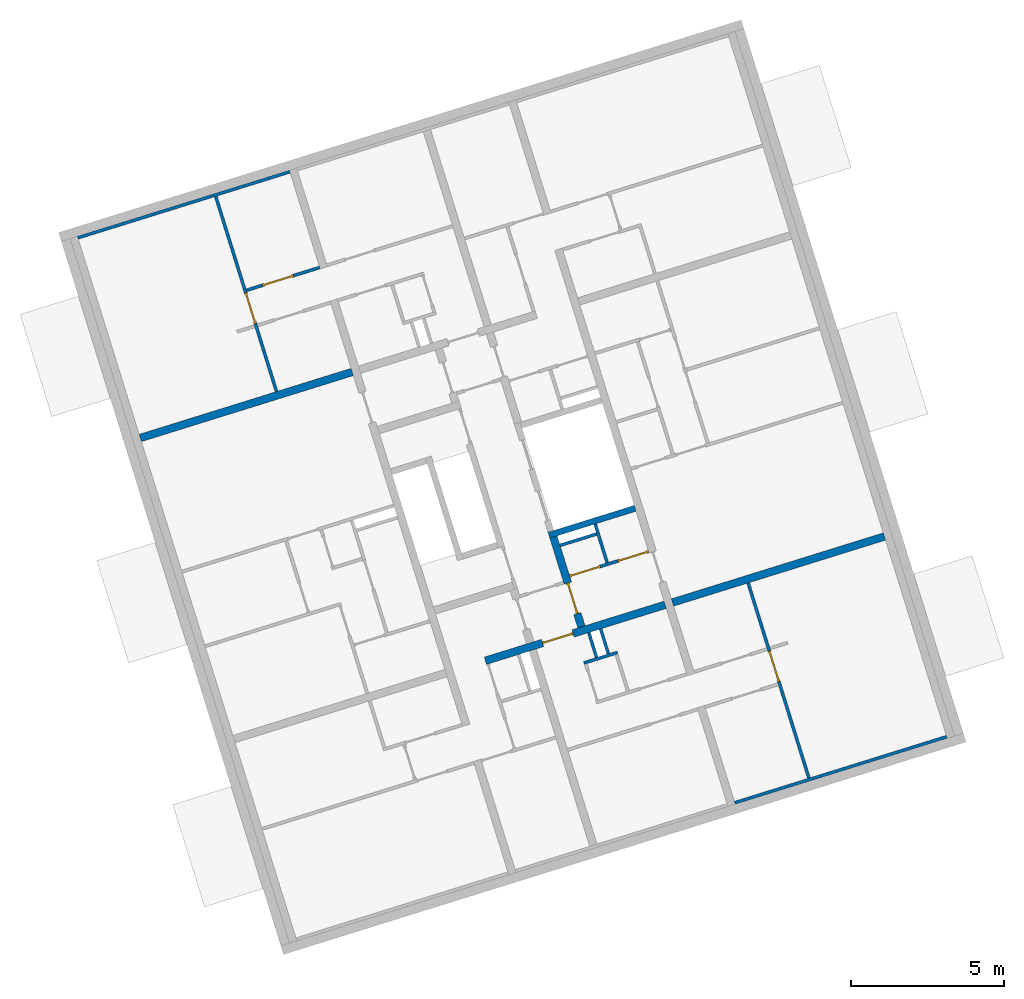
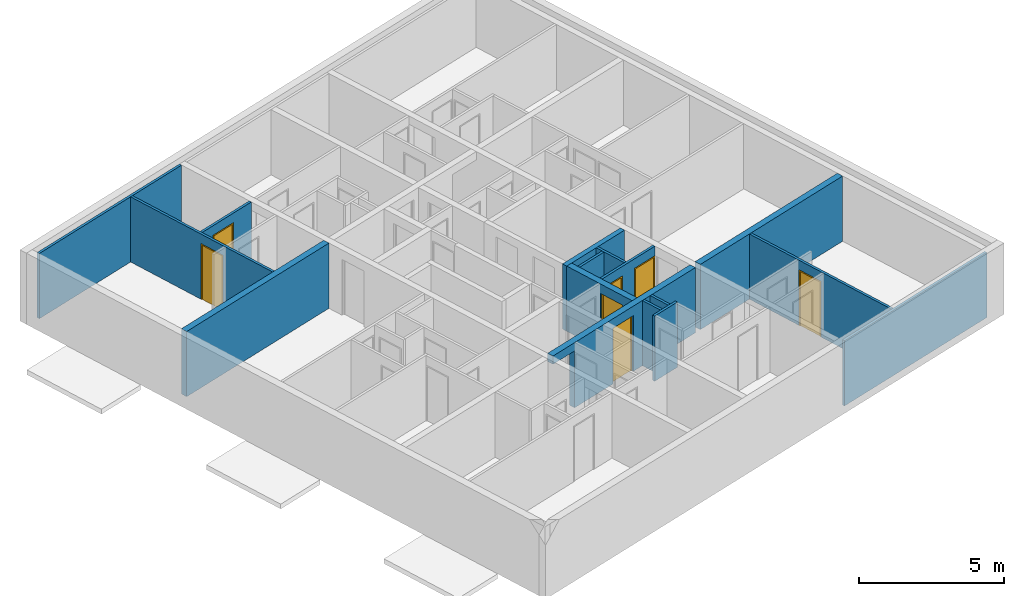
# One storey, part 4 of 9: 16 walls, 7 doors, 8 openings.
"""IFC4 building model written with IfcOpenShell, lengths in metres."""

import ifcopenshell
import ifcopenshell.guid

model = None  # the IFC model being written
_history = None  # IfcOwnerHistory: only IFC2X3 demands one
_inside = {}  # id of a spatial element -> (the spatial element, [elements in it])
_under = {}  # id of a project, library or spatial element -> (it, [spatial elements below it])
_declared = {}  # id of a project -> (the project, [libraries it declares])
_typed = {}  # id of a type object -> (the type object, [elements of that type])
_made_of = {}  # id of a material, layer set ... -> (it, [elements and type objects made of it])


def new_model(schema):
    """Start an empty IFC model of exactly this schema.

    Asked for "IFC4X3", IfcOpenShell would pick the latest addendum, in which some entities
    have other attributes; the version numbers below select the first issue.
    IFC2X3 requires an IfcOwnerHistory on every rooted entity: one is made here for all.
    """
    global model, _history
    if schema == "IFC4X3":
        model = ifcopenshell.file(schema_version=(4, 3, 0, 0))
    else:
        model = ifcopenshell.file(schema=schema)
    _inside.clear()
    _under.clear()
    _declared.clear()
    _typed.clear()
    _made_of.clear()
    _history = None
    if model.schema == "IFC2X3":
        org = make("IfcOrganization", Name="unknown")
        user = make(
            "IfcPersonAndOrganization",
            ThePerson=make("IfcPerson", FamilyName="unknown"),
            TheOrganization=org,
        )
        app = make(
            "IfcApplication",
            ApplicationDeveloper=org,
            Version="unknown",
            ApplicationFullName="unknown",
            ApplicationIdentifier="unknown",
        )
        _history = make(
            "IfcOwnerHistory",
            OwningUser=user,
            OwningApplication=app,
            ChangeAction="ADDED",
            CreationDate=0,
        )
    return model


def make(cls, **values):
    """One entity of the class cls with the attributes given. An attribute that is None is left unset."""
    return model.create_entity(
        cls, **{name: value for name, value in values.items() if value is not None}
    )


def entity(cls, *values):
    """Any entity or typed value of the class cls, its attributes in the order of the schema. None: left unset."""
    e = model.create_entity(cls)
    for i, value in enumerate(values):
        if value is not None:
            e[i] = value
    return e


def rooted(cls, **values):
    """An entity with a GlobalId (a new one), such as an element, a storey or a relation."""
    return make(cls, GlobalId=ifcopenshell.guid.new(), OwnerHistory=_history, **values)


def si_unit(unit_type, name, prefix=None):
    """IfcSIUnit, for example si_unit("LENGTHUNIT", "METRE", prefix="MILLI")."""
    return make("IfcSIUnit", UnitType=unit_type, Prefix=prefix, Name=name)


def converted_unit(unit_type, name, factor, base, dimensions=None, offset=None):
    """IfcConversionBasedUnit, such as the inch: factor (a typed value) times the base unit."""
    return make(
        "IfcConversionBasedUnit"
        if offset is None
        else "IfcConversionBasedUnitWithOffset",
        ConversionOffset=offset,
        Dimensions=None
        if dimensions is None
        else entity("IfcDimensionalExponents", *dimensions),
        UnitType=unit_type,
        Name=name,
        ConversionFactor=make(
            "IfcMeasureWithUnit", ValueComponent=factor, UnitComponent=base
        ),
    )


def assignment(units):
    """IfcUnitAssignment: the units of a project."""
    return None if units is None else make("IfcUnitAssignment", Units=units)


def point(xyz):
    """IfcCartesianPoint."""
    return None if xyz is None else make("IfcCartesianPoint", Coordinates=xyz)


def direction(xyz):
    """IfcDirection."""
    return None if xyz is None else make("IfcDirection", DirectionRatios=xyz)


def frame(location, z_axis=None, x_axis=None):
    """IfcAxis2Placement3D, a coordinate frame: its origin and axes. An axis left out is left unset."""
    return make(
        "IfcAxis2Placement3D",
        Location=point(location),
        Axis=direction(z_axis),
        RefDirection=direction(x_axis),
    )


def origin():
    """The frame at (0, 0, 0) with its axes left unset."""
    return frame((0.0, 0.0, 0.0))


def place(relative_to, where):
    """IfcLocalPlacement: puts the frame where relative to a parent placement (None: the world)."""
    return make(
        "IfcLocalPlacement", PlacementRelTo=relative_to, RelativePlacement=where
    )


def context(
    kind, dimensions, precision=None, world=None, true_north=None, identifier=None
):
    """IfcGeometricRepresentationContext, for example the 3D "Model" context."""
    return make(
        "IfcGeometricRepresentationContext",
        ContextIdentifier=identifier,
        ContextType=kind,
        CoordinateSpaceDimension=dimensions,
        Precision=precision,
        WorldCoordinateSystem=world,
        TrueNorth=true_north,
    )


def subcontext(parent, identifier, kind, view, scale=None):
    """IfcGeometricRepresentationSubContext, for example "Body" below "Model"."""
    return make(
        "IfcGeometricRepresentationSubContext",
        ContextIdentifier=identifier,
        ContextType=kind,
        ParentContext=parent,
        TargetScale=scale,
        TargetView=view,
    )


def project(units=None, contexts=None):
    """IfcProject with its units and contexts."""
    return rooted(
        "IfcProject",
        Name="project",
        RepresentationContexts=contexts,
        UnitsInContext=assignment(units),
    )


def spatial(cls, under=None, at=None, **own):
    """A site, building, storey or space (cls), placed at a placement, below another one or the project."""
    s = rooted(cls, ObjectPlacement=at, **own)
    if under is not None:
        _under.setdefault(under.id(), (under, []))[1].append(s)
    return s


def point_list(points):
    """IfcCartesianPointList2D or 3D."""
    cls = (
        "IfcCartesianPointList2D" if len(points[0]) == 2 else "IfcCartesianPointList3D"
    )
    return make(cls, CoordList=points)


def indexed_curve(points, segments=None, self_intersect=None):
    """IfcIndexedPolyCurve: lines and arcs through numbered points (the first is 1)."""
    return make(
        "IfcIndexedPolyCurve",
        Points=point_list(points),
        Segments=segments,
        SelfIntersect=self_intersect,
    )


def outline(outer, holes=None, kind="AREA"):
    """IfcArbitraryClosedProfileDef: a profile drawn as a closed curve; with holes, ...WithVoids."""
    if holes is None:
        return make("IfcArbitraryClosedProfileDef", ProfileType=kind, OuterCurve=outer)
    return make(
        "IfcArbitraryProfileDefWithVoids",
        ProfileType=kind,
        OuterCurve=outer,
        InnerCurves=holes,
    )


def extrude(swept, where, along, depth):
    """IfcExtrudedAreaSolid: the profile swept, set in the frame where, extruded along a direction by depth."""
    return make(
        "IfcExtrudedAreaSolid",
        SweptArea=swept,
        Position=where,
        ExtrudedDirection=direction(along),
        Depth=depth,
    )


def polygons(points, faces, closed=None, point_numbers=None):
    """IfcPolygonalFaceSet: a face is its outer loop, then its inner loops; points numbered from 1."""
    made = []
    for loops in faces:
        if len(loops) == 1:
            made.append(make("IfcIndexedPolygonalFace", CoordIndex=loops[0]))
        else:
            made.append(
                make(
                    "IfcIndexedPolygonalFaceWithVoids",
                    CoordIndex=loops[0],
                    InnerCoordIndices=loops[1:],
                )
            )
    return make(
        "IfcPolygonalFaceSet",
        Coordinates=point_list(points),
        Closed=closed,
        Faces=made,
        PnIndex=point_numbers,
    )


def shape(context_of_items, identifier, shape_type, items):
    """IfcShapeRepresentation: the items that make up one representation, for example the "Body"."""
    return make(
        "IfcShapeRepresentation",
        ContextOfItems=context_of_items,
        RepresentationIdentifier=identifier,
        RepresentationType=shape_type,
        Items=items,
    )


def source(mapping_origin, context_of_items, identifier, shape_type, items):
    """IfcRepresentationMap: a shape defined once, which mapped items show again and again."""
    return make(
        "IfcRepresentationMap",
        MappingOrigin=mapping_origin,
        MappedRepresentation=shape(context_of_items, identifier, shape_type, items),
    )


def transform(
    local_origin,
    x_axis=None,
    y_axis=None,
    z_axis=None,
    scale=None,
    scale2=None,
    scale3=None,
    uniform=True,
):
    """IfcCartesianTransformationOperator3D, or its non-uniform kind. x_axis, y_axis, z_axis: its Axis1, 2, 3."""
    if uniform:
        return make(
            "IfcCartesianTransformationOperator3D",
            Axis1=direction(x_axis),
            Axis2=direction(y_axis),
            LocalOrigin=point(local_origin),
            Scale=scale,
            Axis3=direction(z_axis),
        )
    return make(
        "IfcCartesianTransformationOperator3DnonUniform",
        Axis1=direction(x_axis),
        Axis2=direction(y_axis),
        LocalOrigin=point(local_origin),
        Scale=scale,
        Axis3=direction(z_axis),
        Scale2=scale2,
        Scale3=scale3,
    )


def mapped(mapping_source, mapping_target):
    """IfcMappedItem: shows the shape of a source again, moved by a transform."""
    return make(
        "IfcMappedItem", MappingSource=mapping_source, MappingTarget=mapping_target
    )


def material(Name=None, Category=None):
    """IfcMaterial."""
    return make("IfcMaterial", Name=Name, Category=Category)


def constituent(of_material, Name=None, Category=None, fraction=None):
    """IfcMaterialConstituent: one of the materials an element consists of."""
    return make(
        "IfcMaterialConstituent",
        Name=Name,
        Material=of_material,
        Fraction=fraction,
        Category=Category,
    )


def constituent_set(constituents=None, Name=None):
    """IfcMaterialConstituentSet."""
    return make(
        "IfcMaterialConstituentSet", Name=Name, MaterialConstituents=constituents
    )


def made_of(thing, what):
    """Note that an element or type object is made of a material, layer set ...; save() writes the relation."""
    if what is not None:
        _made_of.setdefault(what.id(), (what, []))[1].append(thing)
    return thing


def type_object(cls, material=None, **own):
    """A type object (cls), such as IfcWallType, which elements share."""
    return made_of(rooted(cls, **own), material)


def type_shapes(of_type, sources):
    """Give a type object the sources (RepresentationMaps) that its elements show as mapped items."""
    of_type.RepresentationMaps = sources


def element(
    cls,
    number,
    at=None,
    inside=None,
    cuts=None,
    type_object=None,
    material=None,
    context=None,
    identifier="Body",
    shape_type=None,
    held_by="IfcProductDefinitionShape",
    body=None,
    shapes=None,
    **own,
):
    """One element of the class cls, such as IfcWall. Its Tag is "e" and its number.

    at: its placement. inside: the storey or other place that contains it. cuts: it is an
    opening in that element (IfcRelVoidsElement). A single representation is given by context,
    identifier, shape_type and body (its items); several are given by shapes. held_by: the class
    of the entity that holds the representations. save() writes the other relations.
    """
    e = rooted(cls, Tag="e%d" % number, ObjectPlacement=at, **own)
    if body is not None:
        shapes = [shape(context, identifier, shape_type, body)]
    if shapes is not None:
        e.Representation = make(held_by, Representations=shapes)
    if inside is not None:
        _inside.setdefault(inside.id(), (inside, []))[1].append(e)
    if cuts is not None:
        rooted(
            "IfcRelVoidsElement", RelatingBuildingElement=cuts, RelatedOpeningElement=e
        )
    if type_object is not None:
        _typed.setdefault(type_object.id(), (type_object, []))[1].append(e)
    return made_of(e, material)


def fill(opening, filler):
    """IfcRelFillsElement: the door or window that sits in an opening."""
    return rooted(
        "IfcRelFillsElement",
        RelatingOpeningElement=opening,
        RelatedBuildingElement=filler,
    )


def aggregate(whole, parts):
    """IfcRelAggregates: a whole, such as a stair, and the parts it consists of."""
    return rooted("IfcRelAggregates", RelatingObject=whole, RelatedObjects=parts)


def save(model, path):
    """Write the relations noted so far, then the file.

    IfcRelAggregates (storeys below a building ...), IfcRelContainedInSpatialStructure (elements
    in a storey), IfcRelDefinesByType, IfcRelAssociatesMaterial and IfcRelDeclares: one each for
    every whole, place, type object, material and project.
    """
    for whole, parts in _under.values():
        aggregate(whole, parts)
    for where, things in _inside.values():
        rooted(
            "IfcRelContainedInSpatialStructure",
            RelatedElements=things,
            RelatingStructure=where,
        )
    for kind, things in _typed.values():
        rooted("IfcRelDefinesByType", RelatedObjects=things, RelatingType=kind)
    for what, things in _made_of.values():
        rooted("IfcRelAssociatesMaterial", RelatedObjects=things, RelatingMaterial=what)
    for by, libraries in _declared.values():
        rooted("IfcRelDeclares", RelatingContext=by, RelatedDefinitions=libraries)
    model.write(path)


model = new_model("IFC4")

# Units and contexts
model_context = context("Model", 3, precision=1e-05, world=origin(), true_north=direction((6.12323399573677e-17, 1.0)))
body_context = subcontext(model_context, "Body", "Model", "MODEL_VIEW")
ifc_project = project(units=[si_unit("LENGTHUNIT", "METRE"), si_unit("AREAUNIT", "SQUARE_METRE"), converted_unit("PLANEANGLEUNIT", "DEGREE", entity("IfcPlaneAngleMeasure", 0.0174532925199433), si_unit("PLANEANGLEUNIT", "RADIAN"), dimensions=[0, 0, 0, 0, 0, 0, 0]), si_unit("VOLUMEUNIT", "CUBIC_METRE")], contexts=[model_context])

# Site, building, storey
site_placement = place(None, frame((13.1347999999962, 11.9886000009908, 0.0), z_axis=(0.0, 0.0, 1.0), x_axis=(0.954770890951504, 0.297342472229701, 0.0)))
site = spatial("IfcSite", under=ifc_project, at=site_placement, Name="Schiehaven", CompositionType="ELEMENT")
building_placement = place(site_placement, origin())
building = spatial("IfcBuilding", under=site, at=building_placement, Name="VORM huis", CompositionType="ELEMENT")
storey_placement = place(building_placement, frame((0.0, 0.0, 24.9)))
storey = spatial("IfcBuildingStorey", under=building, at=storey_placement, Name="08 achtste verdieping", CompositionType="ELEMENT", Elevation=24.9)

# Wall, openings, door
ifc_material_1 = material(Name="beton_gewapend_ihw", Category="Miscellaneous")
wall_type_1 = type_object("IfcWallType", Name="Basic Wall:28_WA_skelet_wand 250mm_gen", PredefinedType="STANDARD")
wall_1_placement = place(storey_placement, frame((65.125, 11.8999999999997, 0.0)))
wall_1 = element("IfcWall", 1, at=wall_1_placement, inside=storey, type_object=wall_type_1, material=ifc_material_1, Name="Constructieve wand", ObjectType="Wand", PredefinedType="NOTDEFINED", context=body_context, shape_type="Tessellation", body=[
    polygons([(4.09999999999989, -0.125, 2.34999999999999), (4.09999999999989, -0.125, 0.0), (7.24999999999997, -0.125, 0.0), (7.24999999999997, -0.125, 2.75), (-3.43598028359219e-15, -0.125, 2.75), (-3.43598028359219e-15, -0.125, 2.4), (1.10000000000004, -0.125, 2.4), (1.10000000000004, -0.125, 0.0), (3.04999999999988, -0.125, 0.0), (3.04999999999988, -0.125, 2.34999999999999), (7.24999999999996, 0.125, 0.0), (4.09999999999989, 0.125, 0.0), (4.09999999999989, 0.125, 2.34999999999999), (3.04999999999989, 0.125, 2.34999999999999), (3.04999999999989, 0.125, 0.0), (1.10000000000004, 0.125, 0.0), (1.10000000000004, 0.125, 2.4), (-9.33960364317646e-16, 0.125, 2.4), (-9.33960364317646e-16, 0.125, 2.75), (7.24999999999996, 0.125, 2.75)], [[[1, 2, 3, 4, 5, 6, 7, 8, 9, 10]], [[11, 12, 13, 14, 15, 16, 17, 18, 19, 20]], [[9, 8, 16, 15]], [[5, 4, 20, 19]], [[5, 19, 18, 6]], [[15, 14, 10, 9]], [[13, 12, 2, 1]], [[14, 13, 1, 10]], [[17, 7, 6, 18]], [[7, 17, 16, 8]], [[4, 3, 11, 20]], [[3, 2, 12, 11]]], closed=True),
])
opening_1_placement = place(wall_1_placement, origin())
element("IfcOpeningElement", 2, at=opening_1_placement, cuts=wall_1, Name="Constructieve wand", PredefinedType="OPENING", context=body_context, shape_type="SweptSolid", body=[
    extrude(outline(indexed_curve([(-1.2, -0.550000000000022), (1.2, -0.550000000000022), (1.2, 0.550000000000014), (-1.2, 0.550000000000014), (-1.2, -0.550000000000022)], self_intersect=False)), frame((0.55000000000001, -0.125, 1.2), z_axis=(0.0, 1.0, 0.0), x_axis=(0.0, 0.0, -1.0)), (0.0, 0.0, 1.0), 0.249999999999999),
])
opening_2_placement = place(wall_1_placement, frame((3.04999999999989, -0.124999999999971, 0.0)))
opening_2 = element("IfcOpeningElement", 3, at=opening_2_placement, cuts=wall_1, Name="Woningtoegangsdeur", PredefinedType="OPENING", context=body_context, shape_type="SweptSolid", body=[
    extrude(outline(indexed_curve([(2.34999999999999, 1.8457481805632e-29), (2.34999999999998, 1.05), (0.0, 1.05), (2.16573425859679e-15, 1.8457481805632e-29), (2.34999999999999, 1.8457481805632e-29)], self_intersect=False)), frame((0.0, 0.0, 0.0), z_axis=(0.0, 1.0, 0.0), x_axis=(0.0, 0.0, 1.0)), (0.0, 0.0, 1.0), 0.25),
])
ifc_material_2 = material(Name="PD_a_binnenwandopeningen", Category="Miscellaneous")
ifc_constituent_1 = constituent(ifc_material_2, Name="PD_a_binnenwandopeningen", Category="Miscellaneous")
ifc_material_3 = material(Name="metaal_aluminium_ntb", Category="Miscellaneous")
ifc_constituent_2 = constituent(ifc_material_3, Name="metaal_aluminium_ntb", Category="Miscellaneous")
ifc_constituent_set_1 = constituent_set(constituents=[ifc_constituent_1, ifc_constituent_2])
ifc_constituent_3 = constituent(ifc_material_2, Name="PD_a_binnenwandopeningen", Category="Miscellaneous")
ifc_constituent_4 = constituent(ifc_material_3, Name="Panel", Category="Miscellaneous")
ifc_constituent_set_2 = constituent_set(constituents=[ifc_constituent_3, ifc_constituent_4])
door_type_1 = type_object("IfcDoorType", Name="32_DO_binnendeur enkel:woningtoegangsdeur", OperationType="REVOLVING", PredefinedType="DOOR", material=ifc_constituent_set_2)
shared_shape_1 = source(origin(), body_context, "Body", "SweptSolid", [
    extrude(outline(indexed_curve([(0.475, -1.16249999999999), (0.525000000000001, -1.16249999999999), (0.525000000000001, 1.18749999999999), (-0.525000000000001, 1.18749999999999), (-0.525000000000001, -1.16249999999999), (-0.475, -1.16249999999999), (-0.475, 1.13749999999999), (0.475, 1.13749999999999), (0.475, -1.16249999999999)], self_intersect=False)), frame((0.525000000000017, 0.174999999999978, 1.16249999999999), z_axis=(0.0, -1.0, 0.0), x_axis=(1.0, 0.0, 0.0)), (0.0, 0.0, 1.0), 0.1),
    extrude(outline(indexed_curve([(-0.475, -0.025), (0.475, -0.025), (0.475, 0.025), (-0.475, 0.025), (-0.475, -0.025)], self_intersect=False)), frame((0.525000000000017, 0.12499999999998, 0.0)), (0.0, 0.0, 1.0), 2.29999999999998),
])
type_shapes(door_type_1, [shared_shape_1])
door_1_placement = place(opening_2_placement, origin())
door_1 = element("IfcDoor", 4, at=door_1_placement, inside=storey, type_object=door_type_1, material=ifc_constituent_set_1, Name="Woningtoegangsdeur", ObjectType="Deur", OperationType="REVOLVING", OverallHeight=2.34999999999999, OverallWidth=1.05, PredefinedType="DOOR", context=body_context, shape_type="MappedRepresentation", body=[
    mapped(shared_shape_1, transform((0.0, 0.0, 0.0), scale=1.0)),
])
fill(opening_2, door_1)

# Walls
ifc_material_4 = material(Name="ntb_ntb_ntb", Category="Miscellaneous")
wall_type_2 = type_object("IfcWallType", Name="Basic Wall:21_WA_gevel_binnenspouwwand 100mm_gen", PredefinedType="STANDARD")
wall_2_placement = place(storey_placement, frame((79.8750000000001, 5.04999999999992, 0.0), z_axis=(0.0, 0.0, 1.0), x_axis=(-1.0, 0.0, 0.0)))
element("IfcWall", 5, at=wall_2_placement, inside=storey, type_object=wall_type_2, material=ifc_material_4, Name="Binnenspouwblad", ObjectType="Wand", PredefinedType="NOTDEFINED", context=body_context, shape_type="SweptSolid", body=[
    extrude(outline(indexed_curve([(7.24999999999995, 0.0499999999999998), (5.48749790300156e-18, 0.0499999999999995), (-5.48749790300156e-18, -0.0499999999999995), (7.24999999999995, -0.0499999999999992), (7.24999999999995, 0.0499999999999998)], self_intersect=False)), origin(), (0.0, 0.0, 1.0), 2.75),
])
wall_3_placement = place(storey_placement, frame((64.8750000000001, 29.0499999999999, 0.0), z_axis=(0.0, 0.0, 1.0), x_axis=(-1.0, 0.0, 0.0)))
element("IfcWall", 6, at=wall_3_placement, inside=storey, type_object=wall_type_2, material=ifc_material_4, Name="Binnenspouwblad", ObjectType="Wand", PredefinedType="NOTDEFINED", context=body_context, shape_type="SweptSolid", body=[
    extrude(outline(indexed_curve([(7.24999999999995, 0.0499999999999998), (-1.70916305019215e-17, 0.0500000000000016), (1.70916305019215e-17, -0.0500000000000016), (7.24999999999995, -0.0500000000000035), (7.24999999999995, 0.0499999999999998)], self_intersect=False)), origin(), (0.0, 0.0, 1.0), 2.75),
])
ifc_material_5 = material(Name="beton_gewapend_prefab-element", Category="Miscellaneous")
wall_type_3 = type_object("IfcWallType", Name="Basic Wall:28_WA_skelet_wand 200mm_gen", PredefinedType="STANDARD")
wall_4_placement = place(storey_placement, frame((72.3750000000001, 15.1999999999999, 0.0), z_axis=(0.0, 0.0, 1.0), x_axis=(-1.0, 0.0, 0.0)))
element("IfcWall", 7, at=wall_4_placement, inside=storey, type_object=wall_type_3, material=ifc_material_5, Name="Constructieve wand", ObjectType="Wand", PredefinedType="NOTDEFINED", context=body_context, shape_type="SweptSolid", body=[
    extrude(outline(indexed_curve([(2.9500000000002, 0.100000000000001), (-7.31549408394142e-18, 0.100000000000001), (7.31549408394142e-18, -0.100000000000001), (2.9500000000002, -0.100000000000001), (2.9500000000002, 0.100000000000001)], self_intersect=False)), origin(), (0.0, 0.0, 1.0), 2.75),
])
wall_type_4 = type_object("IfcWallType", Name="Basic Wall:22_WA_afbouw_binnenwand 250mm_gen", PredefinedType="STANDARD")
wall_5_placement = place(storey_placement, frame((64.8749999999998, 22.1999999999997, 0.0), z_axis=(0.0, 0.0, 1.0), x_axis=(-1.0, 0.0, 0.0)))
element("IfcWall", 8, at=wall_5_placement, inside=storey, type_object=wall_type_4, material=ifc_material_4, Name="Binnenwand", ObjectType="Wand", PredefinedType="NOTDEFINED", context=body_context, shape_type="SweptSolid", body=[
    extrude(outline(indexed_curve([(7.24999999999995, 0.125000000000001), (1.36042581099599e-15, 0.125000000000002), (-1.36042581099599e-15, -0.125000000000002), (7.24999999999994, -0.125000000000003), (7.24999999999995, 0.125000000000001)], self_intersect=False)), origin(), (0.0, 0.0, 1.0), 2.75),
])
wall_6_placement = place(storey_placement, frame((72.6249999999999, 11.8999999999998, 0.0)))
element("IfcWall", 9, at=wall_6_placement, inside=storey, type_object=wall_type_4, material=ifc_material_4, Name="Binnenwand", ObjectType="Wand", PredefinedType="NOTDEFINED", context=body_context, shape_type="SweptSolid", body=[
    extrude(outline(indexed_curve([(7.24999999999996, 0.124999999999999), (1.36514404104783e-15, 0.125), (-1.36514404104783e-15, -0.125), (7.24999999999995, -0.125000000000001), (7.24999999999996, 0.124999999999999)], self_intersect=False)), origin(), (0.0, 0.0, 1.0), 2.75),
])

# Wall, opening, door
wall_7_placement = place(storey_placement, frame((69.5499999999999, 15.0999999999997, 0.0), z_axis=(0.0, 0.0, 1.0), x_axis=(0.0, -1.0, 0.0)))
wall_7 = element("IfcWall", 10, at=wall_7_placement, inside=storey, type_object=wall_type_4, material=ifc_material_4, Name="Binnenwand", ObjectType="Wand", PredefinedType="NOTDEFINED", context=body_context, shape_type="Tessellation", body=[
    polygons([(2.62500000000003, -0.125000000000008, 2.34999999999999), (2.62500000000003, -0.125000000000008, 0.0), (3.07499999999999, -0.125000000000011, 0.0), (3.07499999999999, -0.125000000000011, 2.75), (1.575, -0.125000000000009, 2.75), (1.475, -0.125000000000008, 2.75), (0.0, -0.125000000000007, 2.75), (0.0, -0.125000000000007, 0.0), (1.475, -0.125000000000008, 0.0), (1.57500000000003, -0.125000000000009, 0.0), (1.57500000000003, -0.125000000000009, 2.34999999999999), (3.07499999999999, 0.124999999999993, 0.0), (2.62500000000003, 0.124999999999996, 0.0), (2.62500000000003, 0.124999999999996, 2.34999999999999), (1.57500000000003, 0.124999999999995, 2.34999999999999), (1.57500000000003, 0.124999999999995, 0.0), (-2.16573425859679e-15, 0.125000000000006, 0.0), (-2.16573425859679e-15, 0.125000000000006, 2.75), (3.07499999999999, 0.124999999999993, 2.75)], [[[1, 2, 3, 4, 5, 6, 7, 8, 9, 10, 11]], [[12, 13, 14, 15, 16, 17, 18, 19]], [[10, 9, 8, 17, 16]], [[4, 3, 12, 19]], [[7, 6, 5, 4, 19, 18]], [[8, 7, 18, 17]], [[16, 15, 11, 10]], [[14, 13, 2, 1]], [[15, 14, 1, 11]], [[3, 2, 13, 12]]], closed=True),
])
opening_3_placement = place(wall_7_placement, frame((2.62500000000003, 0.125000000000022, 0.0)))
opening_3 = element("IfcOpeningElement", 11, at=opening_3_placement, cuts=wall_7, Name="Woningtoegangsdeur", PredefinedType="OPENING", context=body_context, shape_type="SweptSolid", body=[
    extrude(outline(indexed_curve([(2.34999999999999, 1.05), (0.0, 1.05), (0.0, 1.08286712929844e-15), (2.34999999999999, 1.08286712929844e-15), (2.34999999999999, 1.05)], self_intersect=False)), frame((0.0, 0.0, 0.0), z_axis=(0.0, -1.0, 0.0), x_axis=(0.0, 0.0, 1.0)), (0.0, 0.0, 1.0), 0.25),
])
ifc_constituent_5 = constituent(ifc_material_2, Name="PD_a_binnenwandopeningen", Category="Miscellaneous")
ifc_constituent_6 = constituent(ifc_material_3, Name="metaal_aluminium_ntb", Category="Miscellaneous")
ifc_constituent_set_3 = constituent_set(constituents=[ifc_constituent_5, ifc_constituent_6])
ifc_constituent_7 = constituent(ifc_material_2, Name="PD_a_binnenwandopeningen", Category="Miscellaneous")
ifc_constituent_8 = constituent(ifc_material_3, Name="Panel", Category="Miscellaneous")
ifc_constituent_set_4 = constituent_set(constituents=[ifc_constituent_7, ifc_constituent_8])
door_type_2 = type_object("IfcDoorType", Name="32_DO_binnendeur enkel:woningtoegangsdeur", OperationType="REVOLVING", PredefinedType="DOOR", material=ifc_constituent_set_4)
shared_shape_2 = source(origin(), body_context, "Body", "SweptSolid", [
    extrude(outline(indexed_curve([(-1.16249999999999, -0.525000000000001), (1.18749999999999, -0.525), (1.18749999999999, 0.525000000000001), (-1.16249999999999, 0.525000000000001), (-1.16249999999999, 0.475), (1.13749999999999, 0.475), (1.13749999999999, -0.475), (-1.16249999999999, -0.475), (-1.16249999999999, -0.525000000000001)], self_intersect=False)), frame((0.525000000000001, 0.0749999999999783, 1.16249999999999), z_axis=(0.0, 1.0, 0.0), x_axis=(0.0, 0.0, 1.0)), (0.0, 0.0, 1.0), 0.1),
    extrude(outline(indexed_curve([(-0.025, -0.475), (0.025, -0.475), (0.025, 0.475), (-0.025, 0.475), (-0.025, -0.475)], self_intersect=False)), frame((0.525000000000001, 0.12499999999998, 0.0), z_axis=(0.0, 0.0, 1.0), x_axis=(0.0, 1.0, 0.0)), (0.0, 0.0, 1.0), 2.29999999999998),
])
type_shapes(door_type_2, [shared_shape_2])
door_2_placement = place(opening_3_placement, frame((0.0, 0.0, 0.0), z_axis=(0.0, 0.0, 1.0), x_axis=(-1.0, 0.0, 0.0)))
door_2 = element("IfcDoor", 12, at=door_2_placement, inside=storey, type_object=door_type_2, material=ifc_constituent_set_3, Name="Woningtoegangsdeur", ObjectType="Deur", OperationType="REVOLVING", OverallHeight=2.34999999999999, OverallWidth=1.05, PredefinedType="DOOR", context=body_context, shape_type="MappedRepresentation", body=[
    mapped(shared_shape_2, transform((0.0, 0.0, 0.0), scale=1.0)),
])
fill(opening_3, door_2)

# Walls
wall_type_5 = type_object("IfcWallType", Name="Basic Wall:22_WA_afbouw_binnenwand 100mm_gen", PredefinedType="STANDARD")
wall_8_placement = place(storey_placement, frame((70.4249999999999, 10.8749999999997, 0.0), z_axis=(0.0, 0.0, 1.0), x_axis=(-1.0, 0.0, 0.0)))
element("IfcWall", 13, at=wall_8_placement, inside=storey, type_object=wall_type_5, material=ifc_material_4, Name="Binnenwand", ObjectType="Wand", PredefinedType="NOTDEFINED", context=body_context, shape_type="SweptSolid", body=[
    extrude(outline(indexed_curve([(1.15, 0.049999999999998), (6.26749477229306e-16, 0.0499999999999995), (-6.26749477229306e-16, -0.0499999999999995), (1.15, -0.0500000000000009), (1.15, 0.049999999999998)], self_intersect=False)), origin(), (0.0, 0.0, 1.0), 2.75),
])
wall_9_placement = place(storey_placement, frame((69.7249999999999, 11.7749999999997, 0.0), z_axis=(0.0, 0.0, 1.0), x_axis=(0.0, -1.0, 0.0)))
element("IfcWall", 14, at=wall_9_placement, inside=storey, type_object=wall_type_5, material=ifc_material_4, Name="Binnenwand", ObjectType="Wand", PredefinedType="NOTDEFINED", context=body_context, shape_type="SweptSolid", body=[
    extrude(outline(indexed_curve([(0.850000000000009, 0.0499999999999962), (5.75634952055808e-16, 0.0499999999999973), (-5.75634952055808e-16, -0.0499999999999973), (0.850000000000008, -0.0499999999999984), (0.850000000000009, 0.0499999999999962)], self_intersect=False)), origin(), (0.0, 0.0, 1.0), 2.75),
])

# Wall, opening, door
wall_10_placement = place(storey_placement, frame((75.175, 11.7749999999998, 0.0), z_axis=(0.0, 0.0, 1.0), x_axis=(0.0, -1.0, 0.0)))
wall_10 = element("IfcWall", 15, at=wall_10_placement, inside=storey, type_object=wall_type_5, material=ifc_material_4, Name="Binnenwand", ObjectType="Wand", PredefinedType="NOTDEFINED", context=body_context, shape_type="Tessellation", body=[
    polygons([(0.0, -0.050000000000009, 0.0), (2.19999999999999, -0.0500000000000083, 0.0), (2.29999999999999, -0.0500000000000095, 0.0), (2.325, -0.0500000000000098, 0.0), (2.325, -0.0500000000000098, 2.34999999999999), (3.375, -0.0500000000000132, 2.34999999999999), (3.375, -0.0500000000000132, 0.0), (3.39999999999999, -0.0500000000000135, 0.0), (3.49999999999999, -0.050000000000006, 0.0), (6.67499999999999, -0.0500000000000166, 0.0), (6.67499999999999, -0.0500000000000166, 2.75), (3.49999999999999, -0.050000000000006, 2.75), (3.39999999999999, -0.0500000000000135, 2.75), (2.29999999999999, -0.0500000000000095, 2.75), (2.19999999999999, -0.0500000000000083, 2.75), (0.0, -0.050000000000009, 2.75), (2.325, 0.0499999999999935, 2.34999999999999), (2.325, 0.0499999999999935, 0.0), (2.29999999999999, 0.0499999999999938, 0.0), (2.19999999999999, 0.0499999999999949, 0.0), (0.0, 0.0499999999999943, 0.0), (0.0, 0.0499999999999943, 2.75), (2.19999999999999, 0.0499999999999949, 2.75), (2.29999999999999, 0.0499999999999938, 2.75), (6.67499999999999, 0.0499999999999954, 2.75), (6.67499999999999, 0.0499999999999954, 0.0), (3.375, 0.04999999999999, 0.0), (3.375, 0.04999999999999, 2.34999999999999)], [[[1, 2, 3, 4, 5, 6, 7, 8, 9, 10, 11, 12, 13, 14, 15, 16]], [[17, 18, 19, 20, 21, 22, 23, 24, 25, 26, 27, 28]], [[21, 20, 19, 18, 4, 3, 2, 1]], [[11, 10, 26, 25]], [[16, 15, 14, 13, 12, 11, 25, 24, 23, 22]], [[1, 16, 22, 21]], [[7, 6, 28, 27]], [[5, 4, 18, 17]], [[6, 5, 17, 28]], [[27, 26, 10, 9, 8, 7]]], closed=True),
])
opening_4_placement = place(wall_10_placement, frame((3.375, 0.0500000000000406, 0.0)))
opening_4 = element("IfcOpeningElement", 16, at=opening_4_placement, cuts=wall_10, Name="Binnendeur", PredefinedType="OPENING", context=body_context, shape_type="SweptSolid", body=[
    extrude(outline(indexed_curve([(2.34999999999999, 0.0), (2.34999999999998, 1.05), (0.0, 1.05), (2.16573425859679e-15, 0.0), (2.34999999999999, 0.0)], self_intersect=False)), frame((0.0, 0.0, 0.0), z_axis=(0.0, -1.0, 0.0), x_axis=(0.0, 0.0, 1.0)), (0.0, 0.0, 1.0), 0.1),
])
ifc_constituent_9 = constituent(ifc_material_2, Name="PD_a_binnenwandopeningen", Category="Miscellaneous")
ifc_constituent_10 = constituent(ifc_material_3, Name="metaal_aluminium_ntb", Category="Miscellaneous")
ifc_constituent_set_5 = constituent_set(constituents=[ifc_constituent_9, ifc_constituent_10])
ifc_constituent_11 = constituent(ifc_material_2, Name="PD_a_binnenwandopeningen", Category="Miscellaneous")
ifc_constituent_12 = constituent(ifc_material_3, Name="Panel", Category="Miscellaneous")
ifc_constituent_set_6 = constituent_set(constituents=[ifc_constituent_11, ifc_constituent_12])
door_type_3 = type_object("IfcDoorType", Name="32_DO_binnendeur enkel:binnendeur", OperationType="REVOLVING", PredefinedType="DOOR", material=ifc_constituent_set_6)
shared_shape_3 = source(origin(), body_context, "Body", "SweptSolid", [
    extrude(outline(indexed_curve([(0.475, -1.16249999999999), (0.525, -1.16249999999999), (0.525, 1.18749999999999), (-0.525, 1.18749999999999), (-0.525, -1.16249999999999), (-0.475, -1.16249999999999), (-0.475, 1.13749999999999), (0.475, 1.13749999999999), (0.475, -1.16249999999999)], self_intersect=False)), frame((0.525000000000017, 0.100000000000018, 1.16249999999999), z_axis=(0.0, -1.0, 0.0), x_axis=(1.0, 0.0, 0.0)), (0.0, 0.0, 1.0), 0.1),
    extrude(outline(indexed_curve([(-0.475, -0.025), (0.475, -0.025), (0.475, 0.025), (-0.475, 0.025), (-0.475, -0.025)], self_intersect=False)), frame((0.525000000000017, 0.0499999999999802, 0.0)), (0.0, 0.0, 1.0), 2.29999999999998),
])
type_shapes(door_type_3, [shared_shape_3])
door_3_placement = place(opening_4_placement, frame((0.0, 0.0, 0.0), z_axis=(0.0, 0.0, 1.0), x_axis=(-1.0, 0.0, 0.0)))
door_3 = element("IfcDoor", 17, at=door_3_placement, inside=storey, type_object=door_type_3, material=ifc_constituent_set_5, Name="Binnendeur", ObjectType="Deur", OperationType="REVOLVING", OverallHeight=2.34999999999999, OverallWidth=1.05, PredefinedType="DOOR", context=body_context, shape_type="MappedRepresentation", body=[
    mapped(shared_shape_3, transform((0.0, 0.0, 0.0), scale=1.0)),
])
fill(opening_4, door_3)

# Wall
wall_11_placement = place(storey_placement, frame((70.1249999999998, 11.7749999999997, 0.0), z_axis=(0.0, 0.0, 1.0), x_axis=(0.0, -1.0, 0.0)))
element("IfcWall", 18, at=wall_11_placement, inside=storey, type_object=wall_type_5, material=ifc_material_4, Name="Binnenwand", ObjectType="Wand", PredefinedType="NOTDEFINED", context=body_context, shape_type="SweptSolid", body=[
    extrude(outline(indexed_curve([(0.850000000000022, 0.0499999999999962), (5.75634952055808e-16, 0.0499999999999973), (-5.75634952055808e-16, -0.0499999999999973), (0.850000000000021, -0.0499999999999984), (0.850000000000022, 0.0499999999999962)], self_intersect=False)), origin(), (0.0, 0.0, 1.0), 2.75),
])

# Wall, opening, door
wall_12_placement = place(storey_placement, frame((64.8749999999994, 25.7750000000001, 0.0), z_axis=(0.0, 0.0, 1.0), x_axis=(-1.0, 0.0, 0.0)))
wall_12 = element("IfcWall", 19, at=wall_12_placement, inside=storey, type_object=wall_type_5, material=ifc_material_4, Name="Binnenwand", ObjectType="Wand", PredefinedType="NOTDEFINED", context=body_context, shape_type="Tessellation", body=[
    polygons([(-6.39486579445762e-16, -0.0499999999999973, 0.0), (0.899999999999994, -0.0499999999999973, 0.0), (0.899999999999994, -0.0499999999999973, 2.34999999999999), (1.95, -0.049999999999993, 2.34999999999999), (1.95, -0.049999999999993, 0.0), (2.5, -0.049999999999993, 0.0), (2.5, -0.049999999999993, 2.75), (-6.39486579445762e-16, -0.0499999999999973, 2.75), (0.899999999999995, 0.0500000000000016, 2.34999999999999), (0.899999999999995, 0.0500000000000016, 0.0), (8.72504332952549e-16, 0.0500000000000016, 0.0), (8.72504332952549e-16, 0.0500000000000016, 2.75), (2.5, 0.050000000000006, 2.75), (2.5, 0.050000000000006, 0.0), (1.95, 0.050000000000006, 0.0), (1.95, 0.050000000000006, 2.34999999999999)], [[[1, 2, 3, 4, 5, 6, 7, 8]], [[9, 10, 11, 12, 13, 14, 15, 16]], [[11, 10, 2, 1]], [[8, 7, 13, 12]], [[1, 8, 12, 11]], [[5, 4, 16, 15]], [[3, 2, 10, 9]], [[4, 3, 9, 16]], [[7, 6, 14, 13]], [[15, 14, 6, 5]]], closed=True),
])
opening_5_placement = place(wall_12_placement, frame((0.899999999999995, -0.049999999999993, 0.0)))
opening_5 = element("IfcOpeningElement", 20, at=opening_5_placement, cuts=wall_12, Name="Binnendeur", PredefinedType="OPENING", context=body_context, shape_type="SweptSolid", body=[
    extrude(outline(indexed_curve([(2.34999999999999, 1.05), (0.0, 1.05), (0.0, 0.0), (2.34999999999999, 0.0), (2.34999999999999, 1.05)], self_intersect=False)), frame((0.0, 0.0, 0.0), z_axis=(0.0, 1.0, 0.0), x_axis=(0.0, 0.0, 1.0)), (0.0, 0.0, 1.0), 0.1),
])
ifc_constituent_13 = constituent(ifc_material_2, Name="PD_a_binnenwandopeningen", Category="Miscellaneous")
ifc_constituent_14 = constituent(ifc_material_3, Name="metaal_aluminium_ntb", Category="Miscellaneous")
ifc_constituent_set_7 = constituent_set(constituents=[ifc_constituent_13, ifc_constituent_14])
ifc_constituent_15 = constituent(ifc_material_2, Name="PD_a_binnenwandopeningen", Category="Miscellaneous")
ifc_constituent_16 = constituent(ifc_material_3, Name="Panel", Category="Miscellaneous")
ifc_constituent_set_8 = constituent_set(constituents=[ifc_constituent_15, ifc_constituent_16])
door_type_4 = type_object("IfcDoorType", Name="32_DO_binnendeur enkel:binnendeur", OperationType="REVOLVING", PredefinedType="DOOR", material=ifc_constituent_set_8)
shared_shape_4 = source(origin(), body_context, "Body", "SweptSolid", [
    extrude(outline(indexed_curve([(-1.16249999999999, -0.525000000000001), (1.18749999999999, -0.525), (1.18749999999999, 0.525), (-1.16249999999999, 0.525), (-1.16249999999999, 0.475), (1.13749999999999, 0.475), (1.13749999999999, -0.475), (-1.16249999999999, -0.475), (-1.16249999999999, -0.525000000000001)], self_intersect=False)), frame((0.525000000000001, 0.0, 1.16249999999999), z_axis=(0.0, 1.0, 0.0), x_axis=(0.0, 0.0, 1.0)), (0.0, 0.0, 1.0), 0.1),
    extrude(outline(indexed_curve([(-0.025, -0.475), (0.025, -0.475), (0.025, 0.475), (-0.025, 0.475), (-0.025, -0.475)], self_intersect=False)), frame((0.525000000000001, 0.0499999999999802, 0.0), z_axis=(0.0, 0.0, 1.0), x_axis=(0.0, 1.0, 0.0)), (0.0, 0.0, 1.0), 2.29999999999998),
])
type_shapes(door_type_4, [shared_shape_4])
door_4_placement = place(opening_5_placement, origin())
door_4 = element("IfcDoor", 21, at=door_4_placement, inside=storey, type_object=door_type_4, material=ifc_constituent_set_7, Name="Binnendeur", ObjectType="Deur", OperationType="REVOLVING", OverallHeight=2.34999999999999, OverallWidth=1.05, PredefinedType="DOOR", context=body_context, shape_type="MappedRepresentation", body=[
    mapped(shared_shape_4, transform((0.0, 0.0, 0.0), scale=1.0)),
])
fill(opening_5, door_4)

wall_13_placement = place(storey_placement, frame((62.3249999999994, 22.3250000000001, 0.0), z_axis=(0.0, 0.0, 1.0), x_axis=(0.0, 1.0, 0.0)))
wall_13 = element("IfcWall", 22, at=wall_13_placement, inside=storey, type_object=wall_type_5, material=ifc_material_4, Name="Binnenwand", ObjectType="Wand", PredefinedType="NOTDEFINED", context=body_context, shape_type="Tessellation", body=[
    polygons([(0.0, -0.0500000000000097, 0.0), (2.19999999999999, -0.0500000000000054, 0.0), (2.29999999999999, -0.0500000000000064, 0.0), (2.325, -0.0500000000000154, 0.0), (2.325, -0.0500000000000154, 2.34999999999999), (3.37500000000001, -0.0500000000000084, 2.34999999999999), (3.37500000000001, -0.0500000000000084, 0.0), (3.39999999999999, -0.0500000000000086, 0.0), (3.49999999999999, -0.0500000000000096, 0.0), (6.67499999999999, -0.0500000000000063, 0.0), (6.67499999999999, -0.0500000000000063, 2.75), (3.49999999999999, -0.0500000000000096, 2.75), (3.39999999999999, -0.0500000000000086, 2.75), (2.29999999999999, -0.0500000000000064, 2.75), (2.19999999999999, -0.0500000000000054, 2.75), (0.0, -0.0500000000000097, 2.75), (2.325, 0.0499999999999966, 2.34999999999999), (2.325, 0.0499999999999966, 0.0), (2.29999999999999, 0.0499999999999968, 0.0), (2.19999999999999, 0.0499999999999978, 0.0), (0.0, 0.0499999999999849, 0.0), (0.0, 0.0499999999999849, 2.75), (2.19999999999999, 0.0499999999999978, 2.75), (2.29999999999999, 0.0499999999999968, 2.75), (6.67499999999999, 0.0499999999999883, 2.75), (6.67499999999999, 0.0499999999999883, 0.0), (3.37500000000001, 0.0500000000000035, 0.0), (3.37500000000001, 0.0500000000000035, 2.34999999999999)], [[[1, 2, 3, 4, 5, 6, 7, 8, 9, 10, 11, 12, 13, 14, 15, 16]], [[17, 18, 19, 20, 21, 22, 23, 24, 25, 26, 27, 28]], [[21, 20, 19, 18, 4, 3, 2, 1]], [[11, 10, 26, 25]], [[16, 15, 14, 13, 12, 11, 25, 24, 23, 22]], [[1, 16, 22, 21]], [[7, 6, 28, 27]], [[5, 4, 18, 17]], [[6, 5, 17, 28]], [[27, 26, 10, 9, 8, 7]]], closed=True),
])
opening_6_placement = place(wall_13_placement, frame((3.37500000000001, 0.0500000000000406, 0.0)))
opening_6 = element("IfcOpeningElement", 23, at=opening_6_placement, cuts=wall_13, Name="Binnendeur", PredefinedType="OPENING", context=body_context, shape_type="SweptSolid", body=[
    extrude(outline(indexed_curve([(2.34999999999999, 0.0), (2.34999999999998, 1.05), (0.0, 1.05), (2.16573425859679e-15, 0.0), (2.34999999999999, 0.0)], self_intersect=False)), frame((0.0, 0.0, 0.0), z_axis=(0.0, -1.0, 0.0), x_axis=(0.0, 0.0, 1.0)), (0.0, 0.0, 1.0), 0.1),
])
ifc_constituent_17 = constituent(ifc_material_2, Name="PD_a_binnenwandopeningen", Category="Miscellaneous")
ifc_constituent_18 = constituent(ifc_material_3, Name="metaal_aluminium_ntb", Category="Miscellaneous")
ifc_constituent_set_9 = constituent_set(constituents=[ifc_constituent_17, ifc_constituent_18])
door_5_placement = place(opening_6_placement, frame((0.0, 0.0, 0.0), z_axis=(0.0, 0.0, 1.0), x_axis=(-1.0, 0.0, 0.0)))
door_5 = element("IfcDoor", 24, at=door_5_placement, inside=storey, type_object=door_type_3, material=ifc_constituent_set_9, Name="Binnendeur", ObjectType="Deur", OperationType="REVOLVING", OverallHeight=2.34999999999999, OverallWidth=1.05, PredefinedType="DOOR", context=body_context, shape_type="MappedRepresentation", body=[
    mapped(shared_shape_3, transform((0.0, 0.0, 0.0), scale=1.0)),
])
fill(opening_6, door_5)

# Wall, openings, doors
wall_14_placement = place(storey_placement, frame((69.6749999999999, 13.7249999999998, 0.0)))
wall_14 = element("IfcWall", 25, at=wall_14_placement, inside=storey, type_object=wall_type_5, material=ifc_material_4, Name="Binnenwand", ObjectType="Wand", PredefinedType="NOTDEFINED", context=body_context, shape_type="Tessellation", body=[
    polygons([(2.70000000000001, -0.0500000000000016, 2.75), (4.04654553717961e-15, -0.0500000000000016, 2.75), (4.04654553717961e-15, -0.0500000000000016, 2.34999999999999), (1.05, -0.0499999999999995, 2.34999999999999), (1.05000000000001, -0.0499999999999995, 0.0), (1.65, -0.0499999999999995, 0.0), (1.65, -0.0499999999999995, 2.34999999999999), (2.70000000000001, -0.0500000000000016, 2.34999999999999), (4.32953123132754e-15, 0.0499999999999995, 2.75), (1.24999999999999, 0.0499999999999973, 2.75), (1.34999999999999, 0.0499999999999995, 2.75), (2.70000000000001, 0.0499999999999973, 2.75), (2.70000000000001, 0.0499999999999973, 2.34999999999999), (1.65, 0.0500000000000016, 2.34999999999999), (1.65, 0.0500000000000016, 0.0), (1.34999999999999, 0.0499999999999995, 0.0), (1.24999999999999, 0.0499999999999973, 0.0), (1.05, 0.0499999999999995, 0.0), (1.05, 0.0499999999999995, 2.34999999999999), (4.32953123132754e-15, 0.0499999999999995, 2.34999999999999)], [[[1, 2, 3, 4, 5, 6, 7, 8]], [[9, 10, 11, 12, 13, 14, 15, 16, 17, 18, 19, 20]], [[5, 18, 17, 16, 15, 6]], [[12, 1, 8, 13]], [[2, 1, 12, 11, 10, 9]], [[2, 9, 20, 3]], [[4, 19, 18, 5]], [[19, 4, 3, 20]], [[14, 7, 6, 15]], [[7, 14, 13, 8]]], closed=True),
])
opening_7_placement = place(wall_14_placement, frame((1.05, 0.0500000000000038, 0.0)))
opening_7 = element("IfcOpeningElement", 26, at=opening_7_placement, cuts=wall_14, Name="Binnendeur", PredefinedType="OPENING", context=body_context, shape_type="SweptSolid", body=[
    extrude(outline(indexed_curve([(2.34999999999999, 0.0), (2.34999999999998, 1.05), (0.0, 1.05), (2.16573425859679e-15, 0.0), (2.34999999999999, 0.0)], self_intersect=False)), frame((0.0, 0.0, 0.0), z_axis=(0.0, -1.0, 0.0), x_axis=(0.0, 0.0, 1.0)), (0.0, 0.0, 1.0), 0.1),
])
opening_8_placement = place(wall_14_placement, frame((2.70000000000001, 0.0500000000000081, 0.0)))
opening_8 = element("IfcOpeningElement", 27, at=opening_8_placement, cuts=wall_14, Name="Binnendeur", PredefinedType="OPENING", context=body_context, shape_type="SweptSolid", body=[
    extrude(outline(indexed_curve([(2.34999999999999, 0.0), (2.34999999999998, 1.05), (0.0, 1.05), (2.16573425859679e-15, 0.0), (2.34999999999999, 0.0)], self_intersect=False)), frame((0.0, 0.0, 0.0), z_axis=(0.0, -1.0, 0.0), x_axis=(0.0, 0.0, 1.0)), (0.0, 0.0, 1.0), 0.1),
])
ifc_constituent_19 = constituent(ifc_material_2, Name="PD_a_binnenwandopeningen", Category="Miscellaneous")
ifc_constituent_20 = constituent(ifc_material_3, Name="metaal_aluminium_ntb", Category="Miscellaneous")
ifc_constituent_set_10 = constituent_set(constituents=[ifc_constituent_19, ifc_constituent_20])
door_6_placement = place(opening_7_placement, frame((0.0, 0.0, 0.0), z_axis=(0.0, 0.0, 1.0), x_axis=(-1.0, 0.0, 0.0)))
door_6 = element("IfcDoor", 28, at=door_6_placement, inside=storey, type_object=door_type_3, material=ifc_constituent_set_10, Name="Binnendeur", ObjectType="Deur", OperationType="REVOLVING", OverallHeight=2.34999999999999, OverallWidth=1.05, PredefinedType="DOOR", context=body_context, shape_type="MappedRepresentation", body=[
    mapped(shared_shape_3, transform((0.0, 0.0, 0.0), scale=1.0)),
])
fill(opening_7, door_6)
ifc_constituent_21 = constituent(ifc_material_2, Name="PD_a_binnenwandopeningen", Category="Miscellaneous")
ifc_constituent_22 = constituent(ifc_material_3, Name="metaal_aluminium_ntb", Category="Miscellaneous")
ifc_constituent_set_11 = constituent_set(constituents=[ifc_constituent_21, ifc_constituent_22])
door_7_placement = place(opening_8_placement, frame((0.0, 0.0, 0.0), z_axis=(0.0, 0.0, 1.0), x_axis=(-1.0, 0.0, 0.0)))
door_7 = element("IfcDoor", 29, at=door_7_placement, inside=storey, type_object=door_type_3, material=ifc_constituent_set_11, Name="Binnendeur", ObjectType="Deur", OperationType="REVOLVING", OverallHeight=2.34999999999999, OverallWidth=1.05, PredefinedType="DOOR", context=body_context, shape_type="MappedRepresentation", body=[
    mapped(shared_shape_3, transform((0.0, 0.0, 0.0), scale=1.0)),
])
fill(opening_8, door_7)

# Walls
wall_15_placement = place(storey_placement, frame((69.6749999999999, 14.7749999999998, 0.0)))
element("IfcWall", 30, at=wall_15_placement, inside=storey, type_object=wall_type_5, material=ifc_material_4, Name="Binnenwand", ObjectType="Wand", PredefinedType="NOTDEFINED", context=body_context, shape_type="SweptSolid", body=[
    extrude(outline(indexed_curve([(1.24999999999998, 0.0499999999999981), (1.41492847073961e-16, 0.0499999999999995), (-1.41492847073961e-16, -0.0499999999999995), (1.24999999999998, -0.0500000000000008), (1.24999999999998, 0.0499999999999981)], self_intersect=False)), origin(), (0.0, 0.0, 1.0), 2.75),
])
wall_16_placement = place(storey_placement, frame((70.9749999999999, 13.7749999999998, 0.0), z_axis=(0.0, 0.0, 1.0), x_axis=(0.0, 1.0, 0.0)))
element("IfcWall", 31, at=wall_16_placement, inside=storey, type_object=wall_type_5, material=ifc_material_4, Name="Binnenwand", ObjectType="Wand", PredefinedType="NOTDEFINED", context=body_context, shape_type="SweptSolid", body=[
    extrude(outline(indexed_curve([(1.32500000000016, 0.0499999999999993), (-7.6226469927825e-17, 0.0499999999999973), (7.6226469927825e-17, -0.0499999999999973), (1.32500000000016, -0.0499999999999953), (1.32500000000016, 0.0499999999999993)], self_intersect=False)), origin(), (0.0, 0.0, 1.0), 2.75),
])

save(model, "model.ifc")
